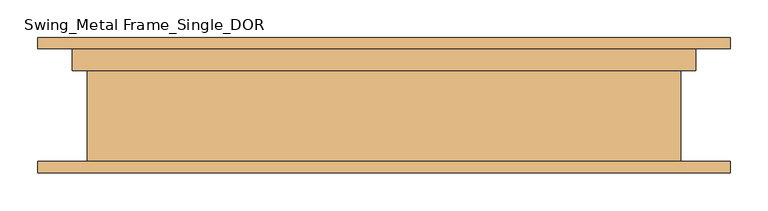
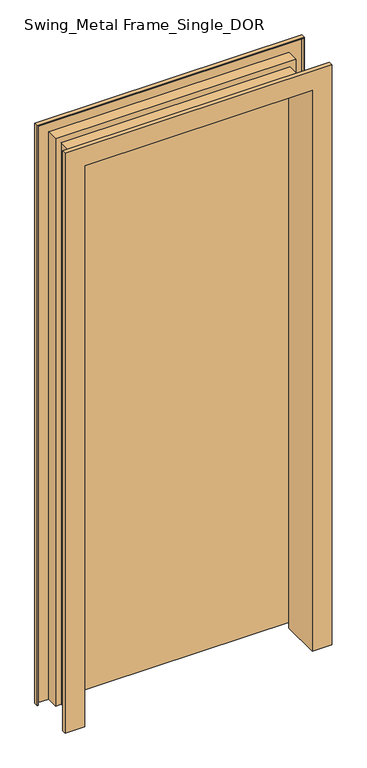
"""IFC4 building model written with IfcOpenShell, lengths in millimetres: door geometry, Swing_Metal Frame_Single_DOR : 2040h x 820 (2110x920 STUD)."""

from ifc_helpers import new_model, si_unit, frame, origin, place, context, project, spatial, polyline, outline, extrude, faceted_brep, source, transform, mapped, element, save


def swing_metal_frame_single_dor_504ee371(model_context):
    return source(origin(), model_context, "Body", "SolidModel", [
        extrude(outline(polyline([(410.0, 90.0), (410.0, 50.0), (-410.0, 50.0), (-410.0, 90.0), (410.0, 90.0)])), frame((0.0, 0.0, 20.0), z_axis=(0.0, 0.0, 1.0), x_axis=(1.0, 0.0, 0.0)), (0.0, 0.0, 1.0), 2040.0),
        faceted_brep([(-460.0, -90.0, 0.0), (-460.0, -75.0, 0.0), (-458.0, -75.0, 0.0), (-458.0, -88.0, 0.0), (-394.0, -88.0, 0.0), (-394.0, 46.0, 0.0), (-414.0, 46.0, 0.0), (-414.0, 88.0, 0.0), (-458.0, 88.0, 0.0), (-458.0, 75.0, 0.0), (-460.0, 75.0, 0.0), (-460.0, 90.0, 0.0), (-412.0, 90.0, 0.0), (-412.0, 48.0, 0.0), (-392.0, 48.0, 0.0), (-392.0, -90.0, 0.0), (-460.0, -90.0, 2110.0), (-460.0, -75.0, 2110.0), (460.0, -75.0, 2110.0), (460.0, -75.0, 0.0), (458.0, -75.0, 0.0), (458.0, -75.0, 2108.0), (-458.0, -75.0, 2108.0), (-458.0, -88.0, 2108.0), (458.0, -88.0, 2108.0), (458.0, -88.0, 0.0), (394.0, -88.0, 0.0), (394.0, -88.0, 2044.0), (-394.0, -88.0, 2044.0), (-394.0, 46.0, 2044.0), (394.0, 46.0, 2044.0), (394.0, 46.0, 0.0), (414.0, 46.0, 0.0), (414.0, 46.0, 2064.0), (-414.0, 46.0, 2064.0), (-414.0, 88.0, 2064.0), (414.0, 88.0, 2064.0), (414.0, 88.0, 0.0), (458.0, 88.0, 0.0), (458.0, 88.0, 2108.0), (-458.0, 88.0, 2108.0), (-458.0, 75.0, 2108.0), (458.0, 75.0, 2108.0), (458.0, 75.0, 0.0), (460.0, 75.0, 0.0), (460.0, 75.0, 2110.0), (-460.0, 75.0, 2110.0), (-460.0, 90.0, 2110.0), (460.0, 90.0, 2110.0), (460.0, 90.0, 0.0), (412.0, 90.0, 0.0), (412.0, 90.0, 2062.0), (-412.0, 90.0, 2062.0), (-412.0, 48.0, 2062.0), (412.0, 48.0, 2062.0), (412.0, 48.0, 0.0), (392.0, 48.0, 0.0), (392.0, 48.0, 2042.0), (-392.0, 48.0, 2042.0), (-392.0, -90.0, 2042.0), (392.0, -90.0, 2042.0), (392.0, -90.0, 0.0), (460.0, -90.0, 0.0), (460.0, -90.0, 2110.0)], [[[0, 1, 2, 3, 4, 5, 6, 7, 8, 9, 10, 11, 12, 13, 14, 15]], [[1, 0, 16, 17]], [[2, 1, 17, 18, 19, 20, 21, 22]], [[3, 2, 22, 23]], [[4, 3, 23, 24, 25, 26, 27, 28]], [[5, 4, 28, 29]], [[6, 5, 29, 30, 31, 32, 33, 34]], [[7, 6, 34, 35]], [[8, 7, 35, 36, 37, 38, 39, 40]], [[9, 8, 40, 41]], [[10, 9, 41, 42, 43, 44, 45, 46]], [[11, 10, 46, 47]], [[12, 11, 47, 48, 49, 50, 51, 52]], [[13, 12, 52, 53]], [[14, 13, 53, 54, 55, 56, 57, 58]], [[15, 14, 58, 59]], [[0, 15, 59, 60, 61, 62, 63, 16]], [[18, 63, 62, 19]], [[62, 61, 56, 55, 50, 49, 44, 43, 38, 37, 32, 31, 26, 25, 20, 19]], [[24, 21, 20, 25]], [[30, 27, 26, 31]], [[36, 33, 32, 37]], [[42, 39, 38, 43]], [[48, 45, 44, 49]], [[54, 51, 50, 55]], [[60, 57, 56, 61]], [[17, 16, 63, 18]], [[23, 22, 21, 24]], [[29, 28, 27, 30]], [[35, 34, 33, 36]], [[41, 40, 39, 42]], [[47, 46, 45, 48]], [[53, 52, 51, 54]], [[59, 58, 57, 60]]]),
    ])


if __name__ == "__main__":
    model = new_model("IFC4")
    model_context = context("Model", 3, world=origin())
    ifc_project = project(units=[si_unit("LENGTHUNIT", "METRE", prefix="MILLI")], contexts=[model_context])
    site = spatial("IfcSite", under=ifc_project)
    building = spatial("IfcBuilding", under=site)
    placement = place(None, origin())
    swing_metal_frame_single_dor_shape = swing_metal_frame_single_dor_504ee371(model_context)
    element("IfcDoor", 1, ObjectType="Swing_Metal Frame_Single_DOR : 2040h x 820 (2110x920 STUD)", at=placement, inside=building, context=model_context, shape_type="MappedRepresentation", body=[
        mapped(swing_metal_frame_single_dor_shape, transform((0.0, 0.0, 0.0), x_axis=(1.0, 0.0, 0.0), y_axis=(0.0, 1.0, 0.0), z_axis=(0.0, 0.0, 1.0))),
    ])
    save(model, "model.ifc")
